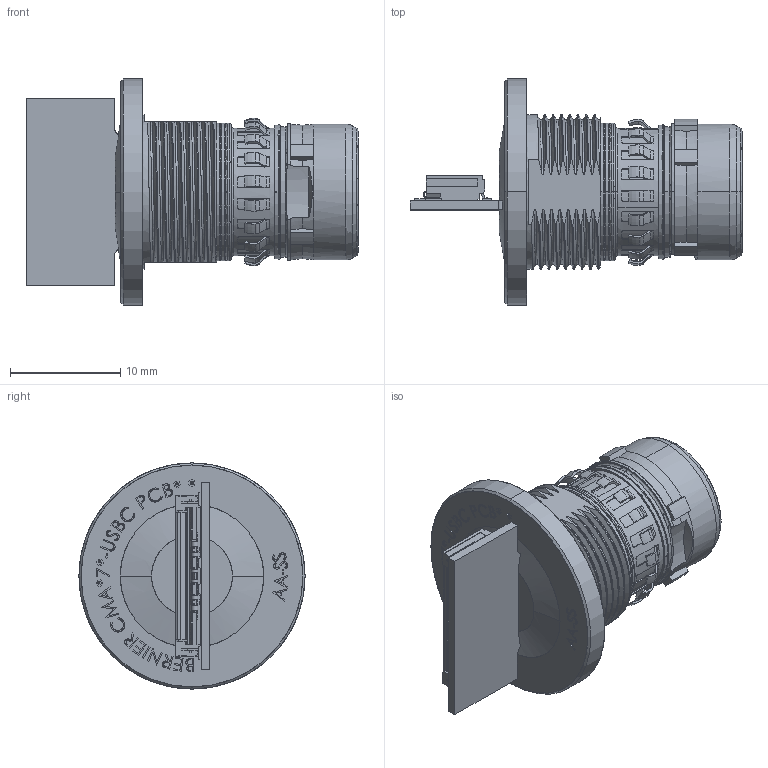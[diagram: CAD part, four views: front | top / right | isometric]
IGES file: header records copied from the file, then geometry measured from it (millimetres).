
Start section: SolidWorks IGES file using analytic representation for surfaces
Global section: file name: C:\Users\dmt\OneDrive - BERNIER CONNECT\Bureau\CMA 7-USBC PCB.IGS; native system: SolidWorks 2019; preprocessor: SolidWorks 2019; author: DMT; date: 210218.095012; units: millimetre
Bounding box: 30.1 x 20.5 x 20.5 mm (x, y, z)
Surface area: 2798.9 mm2 (no closed solid volume)
Topology: 0 solids, 0 shells, 2713 faces, 21223 edges, 21223 vertices
Faces by surface type: bspline 2207, revolution 506
